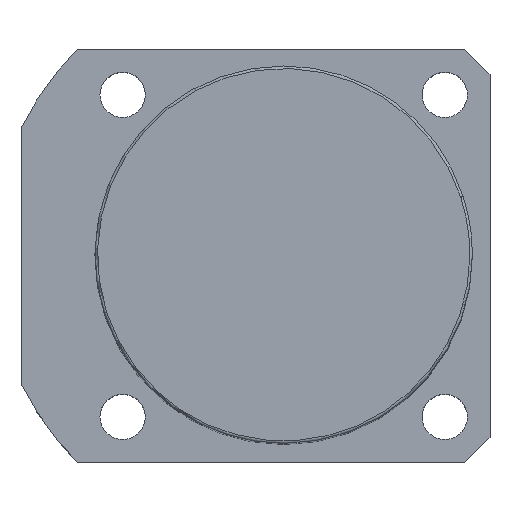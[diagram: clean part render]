
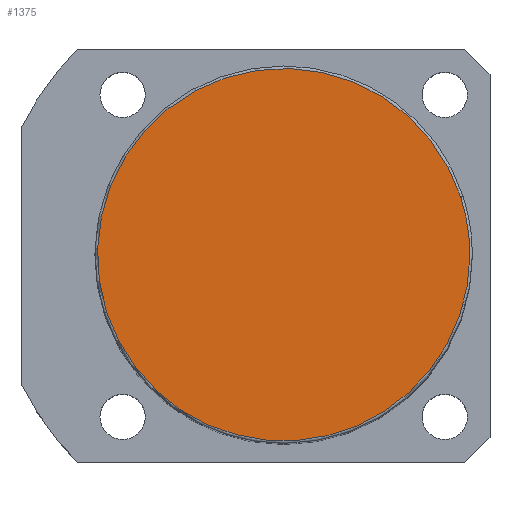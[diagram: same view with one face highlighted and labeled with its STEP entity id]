
A CAD part, top view. The second image highlights one B-rep face of the part: STEP entity #1375.
In plain terms, the highlighted planar face has unit normal (0, 0, 1).
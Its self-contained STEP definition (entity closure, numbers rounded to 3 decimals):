
#1308=CARTESIAN_POINT('',(35.189,11.434,148.0));
#1309=VERTEX_POINT('',#1308);
#1327=CARTESIAN_POINT('',(-35.189,-11.434,148.0));
#1328=VERTEX_POINT('',#1327);
#1336=CARTESIAN_POINT('',(0.0,0.0,148.0));
#1337=DIRECTION('',(0.0,0.0,1.0));
#1338=DIRECTION('',(1.0,0.0,0.0));
#1339=AXIS2_PLACEMENT_3D('',#1336,#1337,#1338);
#1340=CIRCLE('',#1339,37.0);
#1341=EDGE_CURVE('no 4059',#1309,#1328,#1340,.T.);
#1351=CARTESIAN_POINT('',(37.0,0.0,148.0));
#1352=VERTEX_POINT('',#1351);
#1353=CARTESIAN_POINT('',(0.0,0.0,148.0));
#1354=DIRECTION('',(0.0,0.0,1.0));
#1355=DIRECTION('',(1.0,0.0,0.0));
#1356=AXIS2_PLACEMENT_3D('',#1353,#1354,#1355);
#1357=CIRCLE('',#1356,37.0);
#1358=EDGE_CURVE('no 4068',#1352,#1309,#1357,.T.);
#1359=ORIENTED_EDGE('',*,*,#1358,.T.);
#1360=ORIENTED_EDGE('',*,*,#1341,.T.);
#1361=CARTESIAN_POINT('',(0.0,0.0,148.0));
#1362=DIRECTION('',(0.0,0.0,1.0));
#1363=DIRECTION('',(1.0,0.0,0.0));
#1364=AXIS2_PLACEMENT_3D('',#1361,#1362,#1363);
#1365=CIRCLE('',#1364,37.0);
#1366=EDGE_CURVE('no 4074',#1328,#1352,#1365,.T.);
#1367=ORIENTED_EDGE('',*,*,#1366,.T.);
#1368=EDGE_LOOP('',(#1359,#1360,#1367));
#1369=FACE_OUTER_BOUND('',#1368,.T.);
#1370=CARTESIAN_POINT('',(0.0,0.0,148.0));
#1371=DIRECTION('',(0.0,0.0,1.0));
#1372=DIRECTION('',(1.0,0.0,0.0));
#1373=AXIS2_PLACEMENT_3D('',#1370,#1371,#1372);
#1374=PLANE('',#1373);
#1375=ADVANCED_FACE('no 4061',(#1369),#1374,.T.);
